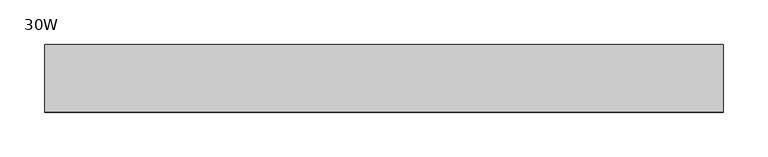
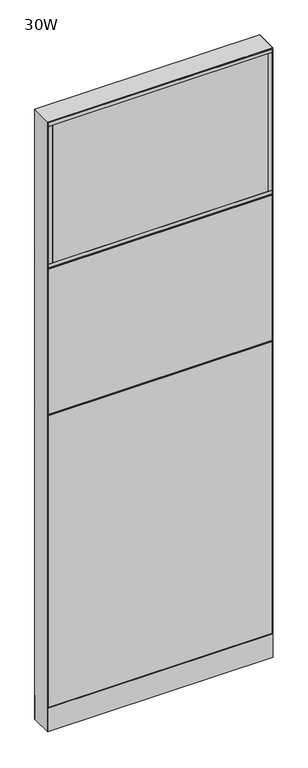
"""IFC4 building model written with IfcOpenShell, lengths in millimetres: furniture geometry, Steelcase - Montage - Frame - 86H - Enhanced Standard - Base Cavity : 30W."""

from ifc_helpers import new_model, si_unit, point, frame, frame_2d, origin, origin_with_axes, place, context, project, spatial, polyline, circle_curve, trimmed, segment, composite_curve, outline, extrude, faceted_brep, source, transform, mapped, element, save


def furniture_30w_bb846bb7(model_context):
    return source(origin(), model_context, "Body", "SolidModel", [
        extrude(outline(polyline([(3.175, 31.7500194), (3.175, 38.1000194), (758.825, 38.1000194), (758.825, 31.7500194), (3.175, 31.7500194)])), frame((0.0, 0.0, 1139.825), z_axis=(0.0, 0.0, 1.0), x_axis=(1.0, 0.0, 0.0)), (0.0, 0.0, 1.0), 517.525),
        extrude(outline(polyline([(746.125, 38.1000015), (746.125, 31.7500017), (15.875, 31.7500017), (15.875, 38.1000015), (746.125, 38.1000015)])), frame((0.0, 0.0, 1676.4), z_axis=(0.0, 0.0, 1.0), x_axis=(1.0, 0.0, 0.0)), (0.0, 0.0, 1.0), 492.125),
        extrude(outline(polyline([(746.125, -31.7499985), (746.125, -38.1000015), (15.875, -38.1000015), (15.875, -31.7499985), (746.125, -31.7499985)])), frame((0.0, 0.0, 1676.4), z_axis=(0.0, 0.0, 1.0), x_axis=(1.0, 0.0, 0.0)), (0.0, 0.0, 1.0), 492.125),
        extrude(outline(polyline([(758.825, -38.1000015), (746.125, -38.1000015), (746.125, 38.1000015), (758.825, 38.1000015), (758.825, -38.1000015)])), frame((0.0, 0.0, 1676.4), z_axis=(0.0, 0.0, 1.0), x_axis=(1.0, 0.0, 0.0)), (0.0, 0.0, 1.0), 492.125),
        extrude(outline(polyline([(15.875, -38.1000015), (3.175, -38.1000015), (3.175, 38.1000015), (15.875, 38.1000015), (15.875, -38.1000015)])), frame((0.0, 0.0, 1676.4), z_axis=(0.0, 0.0, 1.0), x_axis=(1.0, 0.0, 0.0)), (0.0, 0.0, 1.0), 492.125),
        extrude(outline(polyline([(758.825, -38.1000015), (3.175, -38.1000015), (3.175, 38.1000015), (758.825, 38.1000015), (758.825, -38.1000015)])), frame((0.0, 0.0, 1663.7), z_axis=(0.0, 0.0, 1.0), x_axis=(1.0, 0.0, 0.0)), (0.0, 0.0, 1.0), 12.7),
        extrude(outline(polyline([(758.825, -38.1000015), (3.175, -38.1000015), (3.175, 38.1000015), (758.825, 38.1000015), (758.825, -38.1000015)])), frame((0.0, 0.0, 2168.525), z_axis=(0.0, 0.0, 1.0), x_axis=(1.0, 0.0, 0.0)), (0.0, 0.0, 1.0), 12.7),
        faceted_brep([(-5.4e-06, 38.102627, 1136.6500027), (6.3499917, 31.7526299, 1142.9999997), (755.6500047, 31.7526299, 1142.9999997), (762.0, 38.1026253, 1136.6500044), (755.6500047, 31.7526299, 1130.3000003), (6.3499917, 31.7526299, 1130.3000003)], [[[0, 1, 2, 3]], [[3, 4, 5, 0]], [[1, 5, 4, 2]], [[0, 5, 1]], [[2, 4, 3]]]),
        faceted_brep([(-5.4e-06, 38.102627, 1660.5250027), (6.3499917, 31.7526299, 1666.8749997), (755.6500047, 31.7526299, 1666.8749997), (762.0, 38.1026253, 1660.5250044), (755.6500047, 31.7526299, 1654.1750003), (6.3499917, 31.7526299, 1654.1750003)], [[[0, 1, 2, 3]], [[3, 4, 5, 0]], [[1, 5, 4, 2]], [[0, 5, 1]], [[2, 4, 3]]]),
        extrude(outline(polyline([(3.175, 31.7500194), (3.175, 38.1000194), (758.825, 38.1000194), (758.825, 31.7500194), (3.175, 31.7500194)])), frame((0.0, 0.0, 92.075), z_axis=(0.0, 0.0, 1.0), x_axis=(1.0, 0.0, 0.0)), (0.0, 0.0, 1.0), 1041.4),
        extrude(outline(polyline([(3.175, -31.7500194), (758.825, -31.7500194), (758.825, -38.1000194), (3.175, -38.1000194), (3.175, -31.7500194)])), frame((0.0, 0.0, 1139.825), z_axis=(0.0, 0.0, 1.0), x_axis=(1.0, 0.0, 0.0)), (0.0, 0.0, 1.0), 517.525),
        extrude(outline(polyline([(746.125, -38.1000015), (15.875, -38.1000015), (15.875, -31.7500017), (746.125, -31.7500017), (746.125, -38.1000015)])), frame((0.0, 0.0, 1676.4), z_axis=(0.0, 0.0, 1.0), x_axis=(1.0, 0.0, 0.0)), (0.0, 0.0, 1.0), 492.125),
        extrude(outline(polyline([(746.125, 31.7499985), (15.875, 31.7499985), (15.875, 38.1000015), (746.125, 38.1000015), (746.125, 31.7499985)])), frame((0.0, 0.0, 1676.4), z_axis=(0.0, 0.0, 1.0), x_axis=(1.0, 0.0, 0.0)), (0.0, 0.0, 1.0), 492.125),
        extrude(outline(polyline([(758.825, 38.1000015), (758.825, -38.1000015), (746.125, -38.1000015), (746.125, 38.1000015), (758.825, 38.1000015)])), frame((0.0, 0.0, 1676.4), z_axis=(0.0, 0.0, 1.0), x_axis=(1.0, 0.0, 0.0)), (0.0, 0.0, 1.0), 492.125),
        extrude(outline(polyline([(15.875, 38.1000015), (15.875, -38.1000015), (3.175, -38.1000015), (3.175, 38.1000015), (15.875, 38.1000015)])), frame((0.0, 0.0, 1676.4), z_axis=(0.0, 0.0, 1.0), x_axis=(1.0, 0.0, 0.0)), (0.0, 0.0, 1.0), 492.125),
        extrude(outline(polyline([(758.825, 38.1000015), (758.825, -38.1000015), (3.175, -38.1000015), (3.175, 38.1000015), (758.825, 38.1000015)])), frame((0.0, 0.0, 1663.7), z_axis=(0.0, 0.0, 1.0), x_axis=(1.0, 0.0, 0.0)), (0.0, 0.0, 1.0), 12.7),
        extrude(outline(polyline([(758.825, 38.1000015), (758.825, -38.1000015), (3.175, -38.1000015), (3.175, 38.1000015), (758.825, 38.1000015)])), frame((0.0, 0.0, 2168.525), z_axis=(0.0, 0.0, 1.0), x_axis=(1.0, 0.0, 0.0)), (0.0, 0.0, 1.0), 12.7),
        faceted_brep([(0.0, -38.1026297, 1136.65), (762.0, -38.1026297, 1136.65), (755.6500047, -31.7526299, 1142.9999997), (6.3499917, -31.7526299, 1142.9999997), (6.3499917, -31.7526299, 1130.3000003), (755.6500047, -31.7526299, 1130.3000003)], [[[0, 1, 2, 3]], [[1, 0, 4, 5]], [[3, 2, 5, 4]], [[0, 3, 4]], [[2, 1, 5]]]),
        faceted_brep([(0.0, -38.1026297, 1660.525), (762.0, -38.1026297, 1660.525), (755.6500047, -31.7526299, 1666.8749997), (6.3499917, -31.7526299, 1666.8749997), (6.3499917, -31.7526299, 1654.1750003), (755.6500047, -31.7526299, 1654.1750003)], [[[0, 1, 2, 3]], [[1, 0, 4, 5]], [[3, 2, 5, 4]], [[0, 3, 4]], [[2, 1, 5]]]),
        extrude(outline(polyline([(3.175, -31.7500194), (758.825, -31.7500194), (758.825, -38.1000194), (3.175, -38.1000194), (3.175, -31.7500194)])), frame((0.0, 0.0, 92.075), z_axis=(0.0, 0.0, 1.0), x_axis=(1.0, 0.0, 0.0)), (0.0, 0.0, 1.0), 1041.4),
        extrude(outline(polyline([(6.350003, -31.7499985), (755.649997, -31.7499985), (762.0, -38.1000015), (0.0, -38.1000015), (6.350003, -31.7499985)])), frame((0.0, 0.0, 4.064), z_axis=(0.0, 0.0, 1.0), x_axis=(1.0, 0.0, 0.0)), (0.0, 0.0, 1.0), 84.835997),
        extrude(outline(polyline([(6.3500002, 31.7500017), (0.0, 38.1000015), (762.0, 38.1000015), (755.6500002, 31.7500017), (6.3500002, 31.7500017)])), frame((0.0, 0.0, 4.064), z_axis=(0.0, 0.0, 1.0), x_axis=(1.0, 0.0, 0.0)), (0.0, 0.0, 1.0), 84.835997),
        faceted_brep([(762.0, -38.1000015, 2184.4), (0.0, -38.1000015, 2184.4), (6.3500484, -31.749953, 2178.0499516), (755.6499516, -31.749953, 2178.0499516), (6.3500484, 31.749953, 2178.0499516), (755.6499516, 31.749953, 2178.0499516), (0.0, 38.1000015, 2184.4), (762.0, 38.1000015, 2184.4)], [[[0, 1, 2, 3]], [[3, 2, 4, 5]], [[6, 7, 5, 4]], [[1, 0, 7, 6]], [[2, 1, 6, 4]], [[0, 3, 5, 7]]]),
        extrude(outline(composite_curve([segment(trimmed(circle_curve(frame_2d((44.45, 0.0)), 15.24), [point((29.21, 0.0))], [point((59.69, 0.0))], False, "CARTESIAN"), True, "CONTINUOUS"), segment(trimmed(circle_curve(frame_2d((44.45, 0.0)), 15.24), [point((59.69, 0.0))], [point((29.21, 0.0))], False, "CARTESIAN"), True, "CONTINUOUS")], self_intersect=False)), origin_with_axes(), (0.0, 0.0, 1.0), 4.064),
        extrude(outline(composite_curve([segment(trimmed(circle_curve(frame_2d((717.55, 0.0)), 15.24), [point((702.31, 0.0))], [point((732.79, 0.0))], False, "CARTESIAN"), True, "CONTINUOUS"), segment(trimmed(circle_curve(frame_2d((717.55, 0.0)), 15.24), [point((732.79, 0.0))], [point((702.31, 0.0))], False, "CARTESIAN"), True, "CONTINUOUS")], self_intersect=False)), origin_with_axes(), (0.0, 0.0, 1.0), 4.064),
        faceted_brep([(762.0, -38.1000106, 4.064), (762.0, 38.1000015, 4.064), (762.0, 38.1000015, 2184.4), (762.0, -38.1000106, 2184.3999637), (0.0, 38.1000015, 4.064), (0.0, -38.1000015, 4.064), (0.0, -38.1000015, 2184.4), (0.0, 38.1000015, 2184.4), (755.6499879, 31.7500017, 606.425), (6.35, 31.7500017, 606.425), (6.3499998, 31.7500017, 619.125), (755.6499879, 31.7500017, 619.125), (6.35, -31.7499985, 619.125), (755.6499879, -31.7499985, 619.125), (6.350003, -31.7499985, 606.425), (755.6499879, -31.7499985, 606.425), (755.6499879, 31.7500017, 1130.3), (6.35, 31.7500017, 1130.3), (6.3499998, 31.7500017, 1143.0), (755.6499879, 31.7500017, 1143.0), (6.35, -31.7499985, 1143.0), (755.6499879, -31.7499985, 1143.0), (6.350003, -31.7499985, 1130.3), (755.6499879, -31.7499985, 1130.3), (755.6499879, 31.7500017, 1654.175), (6.35, 31.7500017, 1654.175), (6.3499998, 31.7500017, 1666.875), (755.6499879, 31.7500017, 1666.875), (6.35, -31.7499985, 1666.875), (755.6499879, -31.7499985, 1666.875), (6.350003, -31.7499985, 1654.175), (755.6499879, -31.7499985, 1654.175), (6.35, 31.7500015, 4.064), (6.35, -31.7500015, 4.064), (755.6499879, 31.7499894, 4.064), (755.6499879, -31.7499985, 4.064), (6.35, 31.7500015, 2178.05), (6.35, -31.7500015, 2178.05), (755.6499879, -31.7499985, 2178.0499516), (755.6499879, 31.7499895, 2178.0499516)], [[[0, 1, 2, 3]], [[4, 5, 6, 7]], [[8, 9, 10, 11]], [[11, 10, 12, 13]], [[13, 12, 14, 15]], [[9, 8, 15, 14]], [[16, 17, 18, 19]], [[19, 18, 20, 21]], [[21, 20, 22, 23]], [[17, 16, 23, 22]], [[24, 25, 26, 27]], [[27, 26, 28, 29]], [[29, 28, 30, 31]], [[25, 24, 31, 30]], [[32, 33, 5, 4]], [[34, 1, 0, 35]], [[32, 4, 7, 36, 26, 25, 18, 17, 10, 9]], [[5, 33, 14, 12, 22, 20, 30, 28, 37, 6]], [[28, 26, 36, 37]], [[33, 32, 9, 14]], [[18, 25, 30, 20]], [[10, 17, 22, 12]], [[27, 29, 38, 39]], [[34, 35, 15, 8]], [[16, 11, 13, 23]], [[24, 19, 21, 31]], [[35, 0, 3, 38, 29, 31, 21, 23, 13, 15]], [[1, 34, 8, 11, 16, 19, 24, 27, 39, 2]], [[7, 6, 37, 36]], [[3, 2, 39, 38]]]),
    ])


if __name__ == "__main__":
    model = new_model("IFC4")
    model_context = context("Model", 3, world=origin())
    ifc_project = project(units=[si_unit("LENGTHUNIT", "METRE", prefix="MILLI")], contexts=[model_context])
    site = spatial("IfcSite", under=ifc_project)
    building = spatial("IfcBuilding", under=site)
    placement = place(None, origin())
    furniture_30w_shape = furniture_30w_bb846bb7(model_context)
    element("IfcFurniture", 1, ObjectType="Steelcase - Montage - Frame - 86H - Enhanced Standard - Base Cavity : 30W", at=placement, inside=building, context=model_context, shape_type="MappedRepresentation", body=[
        mapped(furniture_30w_shape, transform((0.0, 0.0, 0.0), x_axis=(1.0, 0.0, 0.0), y_axis=(0.0, 1.0, 0.0), z_axis=(0.0, 0.0, 1.0))),
    ])
    save(model, "model.ifc")
